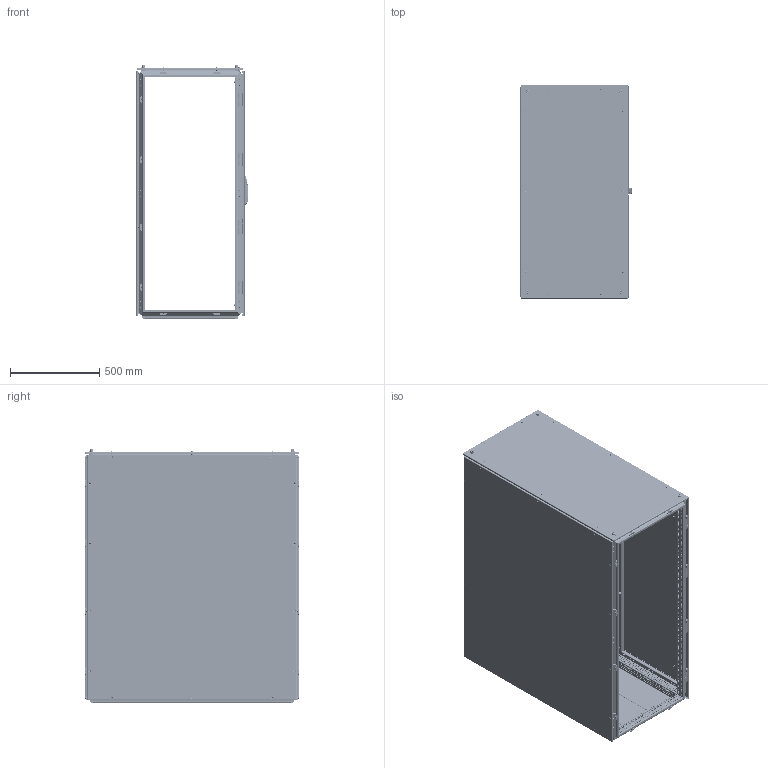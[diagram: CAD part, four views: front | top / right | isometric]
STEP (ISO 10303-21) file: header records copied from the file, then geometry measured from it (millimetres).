
FILE_DESCRIPTION(('STEP AP203'), '1');
FILE_NAME('ØÍÑ ÊÑ PRO II Êîðïóñ ÑÁ', '', ('UNSPECIFIED'), ('UNSPECIFIED'), 'C3D Converter', 'C3D Toolkit', '');
FILE_SCHEMA(('CONFIG_CONTROL_DESIGN'));
Length unit declared in the file: millimetre
Products named in the file (56): 3210.140.120.60; 3000; 3007.175; 3007.75; 3007.200; 3006; 3009.04; 3009.04.01; 3009.04.2; 3009.04.01.2; 3301; 3310; 3311; 3302; 3211; 3409; 3415; 3425; 3426; 3422.01; 3412; 3411; 2952; 3009.05; 3009.05.01; 3622.01; 3417; 3427; 3010
Assembly tree (399 placements, depth 6):
  3210.140.120.60
    3000
      3000
      (unnamed)  x96
      3007.175  x2
      (unnamed)  x22
      3007.75  x2
      3007.200  x2
      3006
      3009.04  x10
        3009.04.01
        (unnamed)
        (unnamed)
      3009.04.2  x15
        3009.04.01.2
        (unnamed)
        (unnamed)
    3301
      3310
        3311
        (unnamed)
      (unnamed)  x10
      (unnamed)  x10
      (unnamed)  x4
      (unnamed)  x4
    3302
      3211
      (unnamed)  x2
      (unnamed)  x14
    3409
      3415
        3425
          3426
          3422.01  x4
          (unnamed)  x14
          (unnamed)  x6
          (unnamed)  x2
        3412  x2
        3411  x2
        (unnamed)  x4
        (unnamed)  x14
        (unnamed)  x20
        (unnamed)  x6
        2952
          (unnamed)
            (unnamed)
            (unnamed)
            (unnamed)
            (unnamed)
            (unnamed)
        (unnamed)  x2
        3009.05  x4
          3009.05.01
          (unnamed)
          (unnamed)
        3622.01  x4
        (unnamed)  x4
      3417
        3427
          3426
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Bounding box: 623.93 x 1197 x 1416 mm (x, y, z)
Volume: 12565105 mm3; surface area: 15974062.5 mm2
Topology: 512 solids, 512 shells, 26832 faces, 72904 edges, 47764 vertices
Faces by surface type: plane 17486, cylinder 6475, cone 1591, bspline 691, torus 460, extrusion 90, sphere 39
Full cylindrical faces by diameter (mm): 0.5 x34, 2.6 x8, 3.71 x8, 4.134 x144, 4.3 x2, 4.5 x2118, 4.8 x24, 4.917 x34, 5 x200, 5.2 x1, 5.5 x10, 5.8 x48, 6 x79, 6.1 x8, 6.4 x8, 6.6 x34, 6.75 x34, 6.8 x200, 7 x102, 7.3 x34, 7.5 x94, 8 x124, 8.3 x16, 8.5 x11, 9.2 x82, 10 x47, 10.106 x8, 10.5 x10, 11.5 x14, 12 x46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
Entity records: 651647 total; most frequent: CARTESIAN_POINT 260170, ORIENTED_EDGE 74254, DIRECTION 69327, EDGE_CURVE 37127, VECTOR 28289, LINE 28244, VERTEX_POINT 25899, EDGE_LOOP 24208
